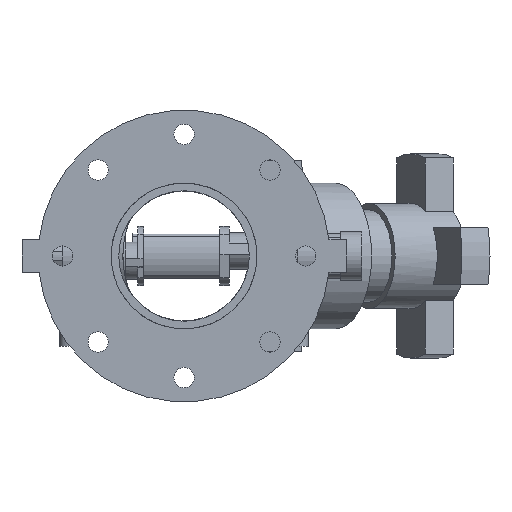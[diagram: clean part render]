
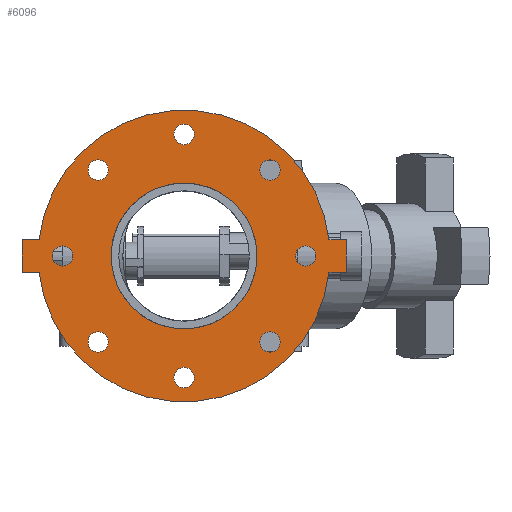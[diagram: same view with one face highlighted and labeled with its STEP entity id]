
A CAD part, front view. The second image highlights one B-rep face of the part: STEP entity #6096.
In plain terms, the highlighted planar face has unit normal (0, -1, 0) as drawn and (0, 0, 1) by its records, which use the part's own axes.
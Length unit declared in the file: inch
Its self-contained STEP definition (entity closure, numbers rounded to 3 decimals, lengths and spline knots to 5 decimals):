
#164=FACE_BOUND('',#774,.T.);
#165=FACE_BOUND('',#775,.T.);
#166=FACE_BOUND('',#776,.T.);
#167=FACE_BOUND('',#777,.T.);
#168=FACE_BOUND('',#778,.T.);
#169=FACE_BOUND('',#779,.T.);
#170=FACE_BOUND('',#780,.T.);
#171=FACE_BOUND('',#781,.T.);
#172=FACE_BOUND('',#782,.T.);
#229=PLANE('',#6622);
#433=FACE_OUTER_BOUND('',#773,.T.);
#773=EDGE_LOOP('',(#3965,#3966,#3967,#3968,#3969,#3970,#3971,#3972));
#774=EDGE_LOOP('',(#3973));
#775=EDGE_LOOP('',(#3974));
#776=EDGE_LOOP('',(#3975));
#777=EDGE_LOOP('',(#3976));
#778=EDGE_LOOP('',(#3977));
#779=EDGE_LOOP('',(#3978));
#780=EDGE_LOOP('',(#3979));
#781=EDGE_LOOP('',(#3980));
#782=EDGE_LOOP('',(#3981,#3982));
#1164=LINE('',#9279,#1631);
#1165=LINE('',#9282,#1632);
#1168=LINE('',#9287,#1635);
#1169=LINE('',#9290,#1636);
#1171=LINE('',#9293,#1638);
#1172=LINE('',#9295,#1639);
#1631=VECTOR('',#7390,0.3937);
#1632=VECTOR('',#7393,0.3937);
#1635=VECTOR('',#7398,0.3937);
#1636=VECTOR('',#7401,0.3937);
#1638=VECTOR('',#7405,0.3937);
#1639=VECTOR('',#7408,0.3937);
#2078=CIRCLE('',#6581,0.3125);
#2080=CIRCLE('',#6584,0.3125);
#2082=CIRCLE('',#6587,0.3125);
#2084=CIRCLE('',#6590,0.3125);
#2086=CIRCLE('',#6593,0.3125);
#2088=CIRCLE('',#6596,0.3125);
#2090=CIRCLE('',#6599,0.3125);
#2092=CIRCLE('',#6602,0.3125);
#2098=CIRCLE('',#6610,4.5);
#2099=CIRCLE('',#6612,2.25);
#2100=CIRCLE('',#6613,2.25);
#2101=CIRCLE('',#6615,4.5);
#2417=VERTEX_POINT('',#9190);
#2419=VERTEX_POINT('',#9196);
#2421=VERTEX_POINT('',#9202);
#2423=VERTEX_POINT('',#9208);
#2425=VERTEX_POINT('',#9214);
#2427=VERTEX_POINT('',#9220);
#2429=VERTEX_POINT('',#9226);
#2431=VERTEX_POINT('',#9232);
#2443=VERTEX_POINT('',#9259);
#2444=VERTEX_POINT('',#9261);
#2445=VERTEX_POINT('',#9265);
#2446=VERTEX_POINT('',#9267);
#2447=VERTEX_POINT('',#9271);
#2448=VERTEX_POINT('',#9273);
#2449=VERTEX_POINT('',#9277);
#2450=VERTEX_POINT('',#9281);
#2451=VERTEX_POINT('',#9285);
#2452=VERTEX_POINT('',#9289);
#3003=EDGE_CURVE('',#2417,#2417,#2078,.T.);
#3006=EDGE_CURVE('',#2419,#2419,#2080,.T.);
#3009=EDGE_CURVE('',#2421,#2421,#2082,.T.);
#3012=EDGE_CURVE('',#2423,#2423,#2084,.T.);
#3015=EDGE_CURVE('',#2425,#2425,#2086,.T.);
#3018=EDGE_CURVE('',#2427,#2427,#2088,.T.);
#3021=EDGE_CURVE('',#2429,#2429,#2090,.T.);
#3024=EDGE_CURVE('',#2431,#2431,#2092,.T.);
#3039=EDGE_CURVE('',#2443,#2444,#2098,.T.);
#3041=EDGE_CURVE('',#2446,#2445,#2099,.T.);
#3042=EDGE_CURVE('',#2445,#2446,#2100,.T.);
#3044=EDGE_CURVE('',#2448,#2447,#2101,.T.);
#3047=EDGE_CURVE('',#2444,#2449,#1164,.T.);
#3048=EDGE_CURVE('',#2450,#2448,#1165,.T.);
#3051=EDGE_CURVE('',#2447,#2451,#1168,.T.);
#3052=EDGE_CURVE('',#2452,#2443,#1169,.T.);
#3054=EDGE_CURVE('',#2451,#2452,#1171,.T.);
#3055=EDGE_CURVE('',#2449,#2450,#1172,.T.);
#3965=ORIENTED_EDGE('',*,*,#3051,.T.);
#3966=ORIENTED_EDGE('',*,*,#3054,.T.);
#3967=ORIENTED_EDGE('',*,*,#3052,.T.);
#3968=ORIENTED_EDGE('',*,*,#3039,.T.);
#3969=ORIENTED_EDGE('',*,*,#3047,.T.);
#3970=ORIENTED_EDGE('',*,*,#3055,.T.);
#3971=ORIENTED_EDGE('',*,*,#3048,.T.);
#3972=ORIENTED_EDGE('',*,*,#3044,.T.);
#3973=ORIENTED_EDGE('',*,*,#3003,.T.);
#3974=ORIENTED_EDGE('',*,*,#3006,.T.);
#3975=ORIENTED_EDGE('',*,*,#3009,.T.);
#3976=ORIENTED_EDGE('',*,*,#3012,.T.);
#3977=ORIENTED_EDGE('',*,*,#3015,.T.);
#3978=ORIENTED_EDGE('',*,*,#3018,.T.);
#3979=ORIENTED_EDGE('',*,*,#3021,.T.);
#3980=ORIENTED_EDGE('',*,*,#3024,.T.);
#3981=ORIENTED_EDGE('',*,*,#3041,.T.);
#3982=ORIENTED_EDGE('',*,*,#3042,.T.);
#6096=ADVANCED_FACE('',(#433,#164,#165,#166,#167,#168,#169,#170,#171,#172),
#229,.T.);
#6581=AXIS2_PLACEMENT_3D('',#9191,#7298,#7299);
#6584=AXIS2_PLACEMENT_3D('',#9197,#7305,#7306);
#6587=AXIS2_PLACEMENT_3D('',#9203,#7312,#7313);
#6590=AXIS2_PLACEMENT_3D('',#9209,#7319,#7320);
#6593=AXIS2_PLACEMENT_3D('',#9215,#7326,#7327);
#6596=AXIS2_PLACEMENT_3D('',#9221,#7333,#7334);
#6599=AXIS2_PLACEMENT_3D('',#9227,#7340,#7341);
#6602=AXIS2_PLACEMENT_3D('',#9233,#7347,#7348);
#6610=AXIS2_PLACEMENT_3D('',#9263,#7372,#7373);
#6612=AXIS2_PLACEMENT_3D('',#9268,#7377,#7378);
#6613=AXIS2_PLACEMENT_3D('',#9269,#7379,#7380);
#6615=AXIS2_PLACEMENT_3D('',#9274,#7384,#7385);
#6622=AXIS2_PLACEMENT_3D('',#9296,#7409,#7410);
#7298=DIRECTION('center_axis',(0.,0.,-1.));
#7299=DIRECTION('ref_axis',(-0.707,0.707,0.));
#7305=DIRECTION('center_axis',(0.,0.,-1.));
#7306=DIRECTION('ref_axis',(0.,1.,0.));
#7312=DIRECTION('center_axis',(0.,0.,-1.));
#7313=DIRECTION('ref_axis',(0.707,0.707,0.));
#7319=DIRECTION('center_axis',(0.,0.,-1.));
#7320=DIRECTION('ref_axis',(1.,0.,0.));
#7326=DIRECTION('center_axis',(0.,0.,-1.));
#7327=DIRECTION('ref_axis',(0.707,-0.707,0.));
#7333=DIRECTION('center_axis',(0.,0.,-1.));
#7334=DIRECTION('ref_axis',(0.,-1.,0.));
#7340=DIRECTION('center_axis',(0.,0.,-1.));
#7341=DIRECTION('ref_axis',(-0.707,-0.707,0.));
#7347=DIRECTION('center_axis',(0.,0.,-1.));
#7348=DIRECTION('ref_axis',(-1.,0.,0.));
#7372=DIRECTION('center_axis',(0.,0.,1.));
#7373=DIRECTION('ref_axis',(-1.,0.,0.));
#7377=DIRECTION('center_axis',(0.,0.,-1.));
#7378=DIRECTION('ref_axis',(-1.,0.,0.));
#7379=DIRECTION('center_axis',(0.,0.,-1.));
#7380=DIRECTION('ref_axis',(-1.,0.,0.));
#7384=DIRECTION('center_axis',(0.,0.,1.));
#7385=DIRECTION('ref_axis',(-1.,0.,0.));
#7390=DIRECTION('',(0.,1.,0.));
#7393=DIRECTION('',(0.,-1.,0.));
#7398=DIRECTION('',(0.,-1.,0.));
#7401=DIRECTION('',(0.,1.,0.));
#7405=DIRECTION('',(1.,0.,0.));
#7408=DIRECTION('',(-1.,0.,0.));
#7409=DIRECTION('center_axis',(0.,0.,1.));
#7410=DIRECTION('ref_axis',(1.,0.,0.));
#9190=CARTESIAN_POINT('',(-2.43068,2.43068,0.5));
#9191=CARTESIAN_POINT('Origin',(-2.65165,2.65165,0.5));
#9196=CARTESIAN_POINT('',(0.,3.4375,0.5));
#9197=CARTESIAN_POINT('Origin',(0.,3.75,0.5));
#9202=CARTESIAN_POINT('',(2.43068,2.43068,0.5));
#9203=CARTESIAN_POINT('Origin',(2.65165,2.65165,0.5));
#9208=CARTESIAN_POINT('',(3.4375,0.,0.5));
#9209=CARTESIAN_POINT('Origin',(3.75,0.,0.5));
#9214=CARTESIAN_POINT('',(2.43068,-2.43068,0.5));
#9215=CARTESIAN_POINT('Origin',(2.65165,-2.65165,0.5));
#9220=CARTESIAN_POINT('',(0.,-3.4375,0.5));
#9221=CARTESIAN_POINT('Origin',(0.,-3.75,0.5));
#9226=CARTESIAN_POINT('',(-2.43068,-2.43068,0.5));
#9227=CARTESIAN_POINT('Origin',(-2.65165,-2.65165,0.5));
#9232=CARTESIAN_POINT('',(-3.4375,0.,0.5));
#9233=CARTESIAN_POINT('Origin',(-3.75,0.,0.5));
#9259=CARTESIAN_POINT('',(0.5,-4.47214,0.5));
#9261=CARTESIAN_POINT('',(0.5,4.47214,0.5));
#9263=CARTESIAN_POINT('Origin',(0.,0.,0.5));
#9265=CARTESIAN_POINT('',(2.25,0.,0.5));
#9267=CARTESIAN_POINT('',(0.5,2.19374,0.5));
#9268=CARTESIAN_POINT('Origin',(0.,0.,0.5));
#9269=CARTESIAN_POINT('Origin',(0.,0.,0.5));
#9271=CARTESIAN_POINT('',(-0.5,-4.47214,0.5));
#9273=CARTESIAN_POINT('',(-0.5,4.47214,0.5));
#9274=CARTESIAN_POINT('Origin',(0.,0.,0.5));
#9277=CARTESIAN_POINT('',(0.5,5.,0.5));
#9279=CARTESIAN_POINT('',(0.5,5.,0.5));
#9281=CARTESIAN_POINT('',(-0.5,5.,0.5));
#9282=CARTESIAN_POINT('',(-0.5,-5.,0.5));
#9285=CARTESIAN_POINT('',(-0.5,-5.,0.5));
#9287=CARTESIAN_POINT('',(-0.5,-5.,0.5));
#9289=CARTESIAN_POINT('',(0.5,-5.,0.5));
#9290=CARTESIAN_POINT('',(0.5,5.,0.5));
#9293=CARTESIAN_POINT('',(0.5,-5.,0.5));
#9295=CARTESIAN_POINT('',(-0.5,5.,0.5));
#9296=CARTESIAN_POINT('Origin',(0.,0.,0.5));
